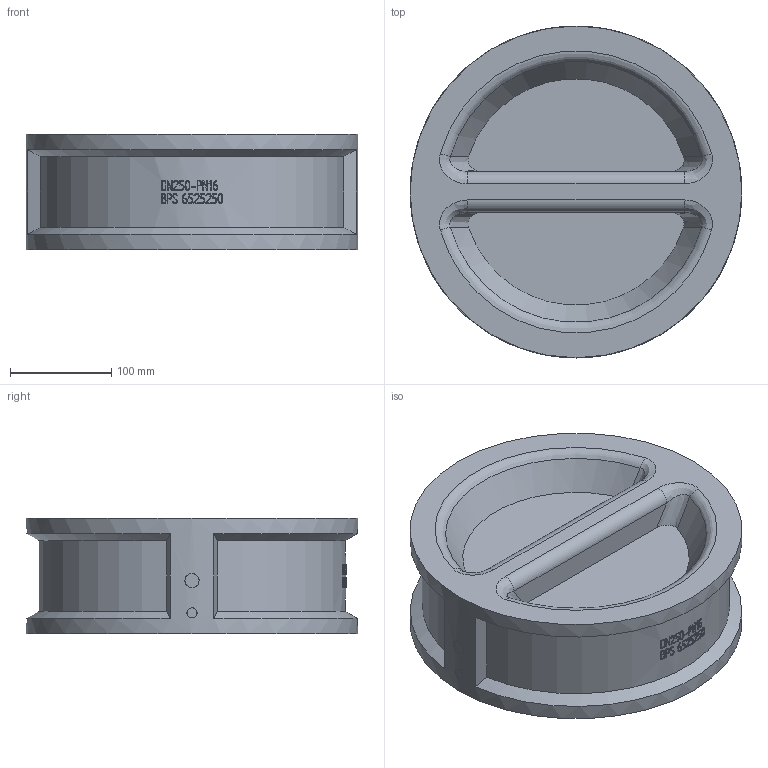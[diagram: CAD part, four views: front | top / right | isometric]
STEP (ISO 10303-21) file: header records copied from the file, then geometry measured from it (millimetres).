
FILE_DESCRIPTION( ( 'Unknown' ), '1' );
FILE_NAME( 'C:/Documents and Settings/Klaus/My Documents/Rootsi BPS 3D, Klaus/BPS 6525 double-door swing check valve/STEP/BPS6525250 double door swing check valve DN250.stp', 'Unknown', ( 'Unknown' ), ( 'Unknown' ), 'PSStep 10.1', 'Unknown', ' ' );
FILE_SCHEMA( ( 'AUTOMOTIVE_DESIGN { 1 0 10303 214 1 1 1 1 }' ) );
Length unit declared in the file: millimetre
Products named in the file (1): 1
Bounding box: 328 x 328 x 114 mm (x, y, z)
Volume: 4240365.2 mm3; surface area: 419824.8 mm2
Topology: 1 solids, 1 shells, 272 faces, 666 edges, 432 vertices
Faces by surface type: plane 114, bspline 97, cylinder 52, cone 6, torus 3
Full cylindrical faces by diameter (mm): 10 x1, 14 x3, 254 x1, 265 x1, 328 x1
Entity records: 26685 total; most frequent: CARTESIAN_POINT 19479, ORIENTED_EDGE 1252, EDGE_CURVE 626, DIRECTION 554, B_SPLINE_CURVE_WITH_KNOTS 490, VERTEX_POINT 422, EDGE_LOOP 350, FACE_OUTER_BOUND 298
